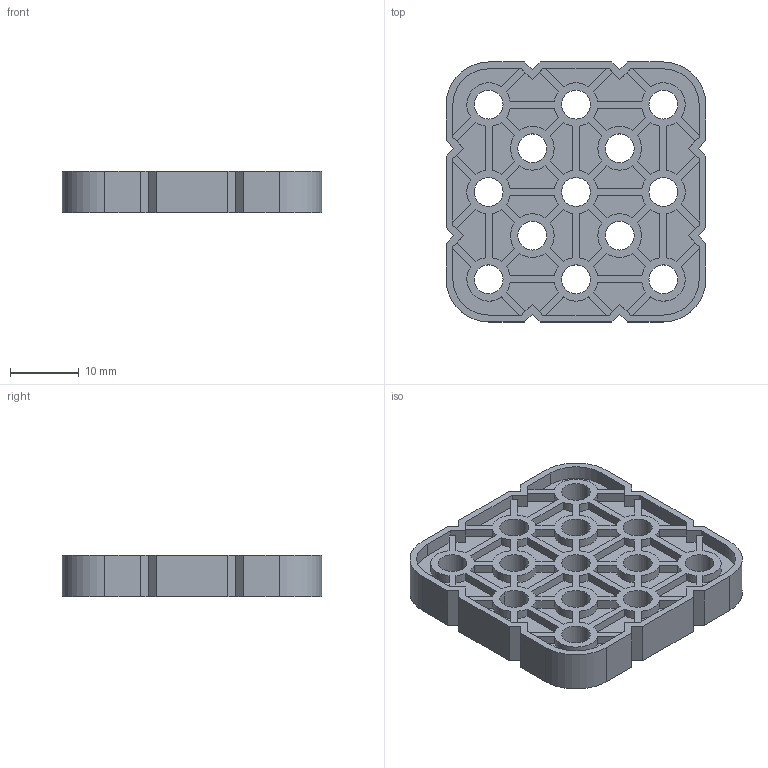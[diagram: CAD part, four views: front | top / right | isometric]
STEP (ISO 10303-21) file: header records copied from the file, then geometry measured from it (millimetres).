
FILE_DESCRIPTION (( 'STEP AP214' ), '1' );
FILE_NAME ('228-2500-031.STEP', '2021-02-18T19:37:48', ( '' ), ( '' ), 'SwSTEP 2.0', 'SolidWorks 2019', '' );
FILE_SCHEMA (( 'AUTOMOTIVE_DESIGN' ));
Length unit declared in the file: millimetre
Products named in the file (1): 228-2500-031
Bounding box: 37.8 x 37.8 x 6.1 mm (x, y, z)
Volume: 4072.5 mm3; surface area: 6062 mm2
Topology: 1 solids, 1 shells, 522 faces, 1458 edges, 972 vertices
Faces by surface type: plane 328, cylinder 194
Entity records: 16876 total; most frequent: CARTESIAN_POINT 2953, ORIENTED_EDGE 2916, DIRECTION 2892, EDGE_CURVE 1458, LINE 1070, VECTOR 1070, VERTEX_POINT 972, AXIS2_PLACEMENT_3D 911
